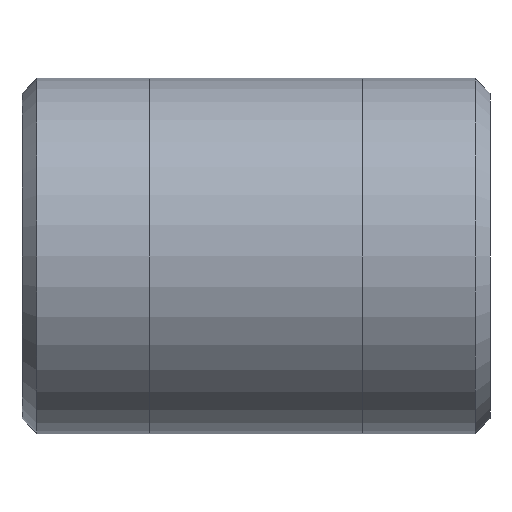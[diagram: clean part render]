
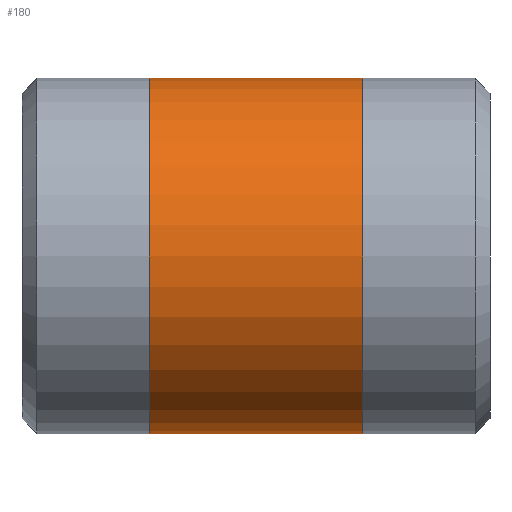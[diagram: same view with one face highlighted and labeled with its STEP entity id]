
A CAD part, left-side view. The second image highlights one B-rep face of the part: STEP entity #180.
In plain terms, the highlighted cylindrical face has radius 24.13 mm (diameter 48.26 mm), a full revolution.
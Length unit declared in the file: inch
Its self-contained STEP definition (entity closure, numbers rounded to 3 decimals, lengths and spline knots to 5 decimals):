
#25=CYLINDRICAL_SURFACE('',#220,0.95);
#34=FACE_OUTER_BOUND('',#47,.T.);
#47=EDGE_LOOP('',(#155,#156,#157,#158,#159,#160));
#55=LINE('',#338,#61);
#61=VECTOR('',#283,0.95);
#77=CIRCLE('',#218,0.95);
#78=CIRCLE('',#219,0.95);
#79=CIRCLE('',#221,0.95);
#80=CIRCLE('',#222,0.95);
#95=VERTEX_POINT('',#329);
#96=VERTEX_POINT('',#330);
#97=VERTEX_POINT('',#334);
#98=VERTEX_POINT('',#335);
#117=EDGE_CURVE('',#95,#96,#77,.T.);
#118=EDGE_CURVE('',#96,#95,#78,.T.);
#119=EDGE_CURVE('',#97,#98,#79,.T.);
#120=EDGE_CURVE('',#98,#97,#80,.T.);
#121=EDGE_CURVE('',#98,#96,#55,.T.);
#155=ORIENTED_EDGE('',*,*,#119,.F.);
#156=ORIENTED_EDGE('',*,*,#120,.F.);
#157=ORIENTED_EDGE('',*,*,#121,.T.);
#158=ORIENTED_EDGE('',*,*,#118,.T.);
#159=ORIENTED_EDGE('',*,*,#117,.T.);
#160=ORIENTED_EDGE('',*,*,#121,.F.);
#180=ADVANCED_FACE('',(#34),#25,.T.);
#218=AXIS2_PLACEMENT_3D('',#331,#273,#274);
#219=AXIS2_PLACEMENT_3D('',#332,#275,#276);
#220=AXIS2_PLACEMENT_3D('',#333,#277,#278);
#221=AXIS2_PLACEMENT_3D('',#336,#279,#280);
#222=AXIS2_PLACEMENT_3D('',#337,#281,#282);
#273=DIRECTION('center_axis',(0.,-1.,0.));
#274=DIRECTION('ref_axis',(1.,0.,0.));
#275=DIRECTION('center_axis',(0.,-1.,0.));
#276=DIRECTION('ref_axis',(1.,0.,0.));
#277=DIRECTION('center_axis',(0.,-1.,0.));
#278=DIRECTION('ref_axis',(0.,0.,-1.));
#279=DIRECTION('center_axis',(0.,-1.,0.));
#280=DIRECTION('ref_axis',(1.,0.,0.));
#281=DIRECTION('center_axis',(0.,-1.,0.));
#282=DIRECTION('ref_axis',(1.,0.,0.));
#283=DIRECTION('',(0.,1.,0.));
#329=CARTESIAN_POINT('',(0.,1.819,-0.95));
#330=CARTESIAN_POINT('',(0.,1.819,0.95));
#331=CARTESIAN_POINT('Origin',(0.,1.819,0.));
#332=CARTESIAN_POINT('Origin',(0.,1.819,0.));
#333=CARTESIAN_POINT('Origin',(0.,1.25,0.));
#334=CARTESIAN_POINT('',(0.,0.681,-0.95));
#335=CARTESIAN_POINT('',(0.,0.681,0.95));
#336=CARTESIAN_POINT('Origin',(0.,0.681,0.));
#337=CARTESIAN_POINT('Origin',(0.,0.681,0.));
#338=CARTESIAN_POINT('',(0.,1.25,0.95));
